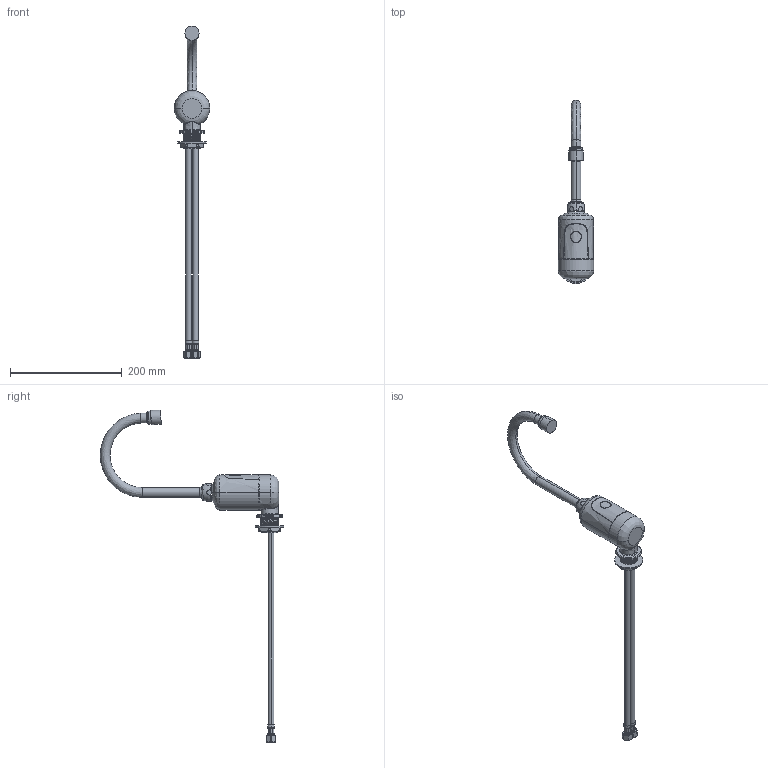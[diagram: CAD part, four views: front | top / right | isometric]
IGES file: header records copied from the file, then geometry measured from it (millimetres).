
Start section:  PTC IGES file: 116-114-AB-1_REV030910.igs
Global section: file name: 116-114-AB-1_REV030910.igs; native system: Pro/ENGINEER by Parametric Technology Corporation; preprocessor: 2009230; author: sdmitruk; organization: Unknown; date: 20100309.090140; units: inch
Bounding box: 63.5 x 329.03 x 595.49 mm (x, y, z)
Surface area: 97137.9 mm2 (no closed solid volume)
Topology: 0 solids, 37 shells, 322 faces, 897 edges, 600 vertices
Faces by surface type: revolution 174, bspline 148
